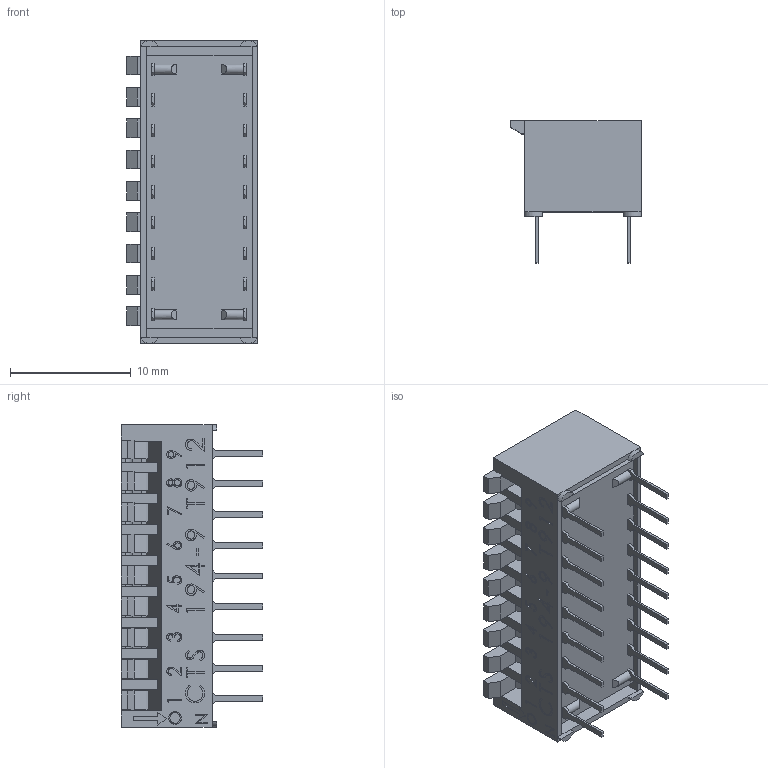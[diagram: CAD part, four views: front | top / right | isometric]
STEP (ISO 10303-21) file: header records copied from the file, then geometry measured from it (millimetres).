
FILE_DESCRIPTION (( 'STEP AP214' ), '1' );
FILE_NAME ('194-9MS.STEP', '2019-05-24T05:56:47', ( '' ), ( '' ), 'SwSTEP 2.0', 'SolidWorks 2019', '' );
FILE_SCHEMA (( 'AUTOMOTIVE_DESIGN' ));
Length unit declared in the file: millimetre
Products named in the file (4): 194-40-109-40-01; 193-56-001; 194-9 pole assembly; 194-9MS
Assembly tree (11 placements, depth 2):
  194-9MS
    194-40-109-40-01
    193-56-001  x9
    194-9 pole assembly
Bounding box: 10.79 x 11.71 x 25.04 mm (x, y, z)
Volume: 1259.4 mm3; surface area: 2817 mm2
Topology: 11 solids, 11 shells, 685 faces, 1864 edges, 1236 vertices
Faces by surface type: plane 504, bspline 128, cylinder 53
Entity records: 28725 total; most frequent: CARTESIAN_POINT 11227, ORIENTED_EDGE 3248, DIRECTION 2360, EDGE_CURVE 1624, LINE 1318, VECTOR 1318, VERTEX_POINT 1076, EDGE_LOOP 642
